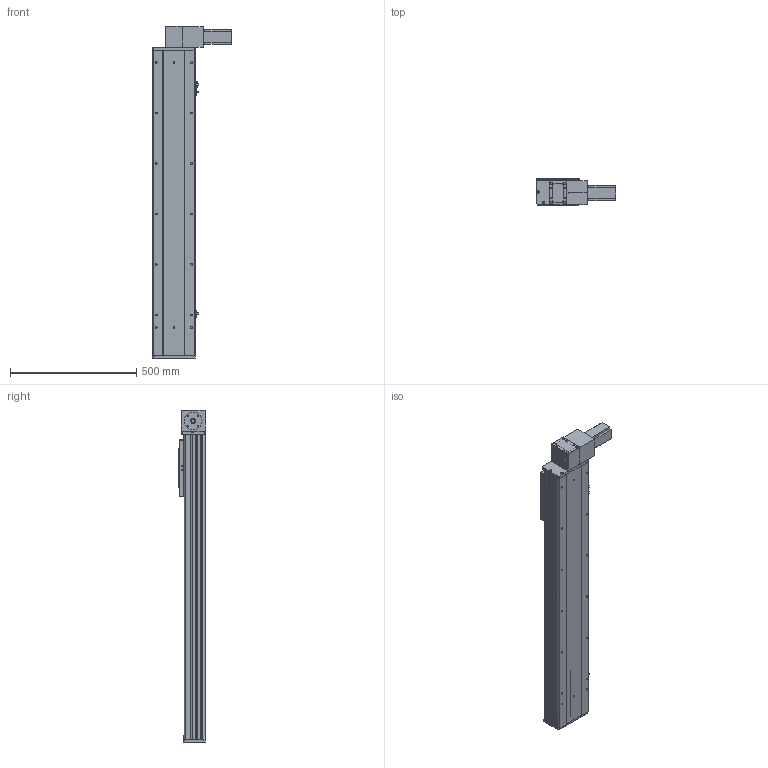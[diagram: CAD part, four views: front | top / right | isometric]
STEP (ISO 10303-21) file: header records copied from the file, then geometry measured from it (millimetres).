
FILE_DESCRIPTION (( 'STEP AP203' ), '1' );
FILE_NAME ('Y170CB-D105-S900-BD-P400W.STEP', '2020-02-20T08:30:27', ( '微软用户' ), ( '微软中国' ), 'SwSTEP 2.0', 'SolidWorks 2017', '' );
FILE_SCHEMA (( 'CONFIG_CONTROL_DESIGN' ));
Length unit declared in the file: millimetre
Products named in the file (16): Y1埴倛裔; --70CB --喘謫眊楊擘啣-; 70B喘謫眊----; 70CB-耜裔啣-; 0B薊粣ん眊-400W--; 70C--詩湍揤踡え-; Y170CB-D105-S900-BD-P400W; 70CB--耜裔; 70C-雄赽釱-奻-; 0C--雄赽釱俋欶-170; B-源倛裔啣; 70CB-詩湍--; san松下电机400不带刹车----; Y170CB-陔俋离換覜結え---; Y100-135俋离換覜ん--; 70CB-掛极-
Assembly tree (19 placements, depth 2):
  Y170CB-D105-S900-BD-P400W
    B-源倛裔啣
    san松下电机400不带刹车----
    70CB-掛极-
    --70CB --喘謫眊楊擘啣-
    70CB-耜裔啣-  x2
    70C--詩湍揤踡え-  x2
    70CB--耜裔
    70C-雄赽釱-奻-
    0C--雄赽釱俋欶-170
    70CB-詩湍--
    Y100-135俋离換覜ん--  x3
    Y170CB-陔俋离換覜結え---
    Y1埴倛裔
    70B喘謫眊----
    0B薊粣ん眊-400W--
Bounding box: 313.5 x 107 x 1316 mm (x, y, z)
Volume: 6432497 mm3; surface area: 2172713.9 mm2
Topology: 19 solids, 19 shells, 920 faces, 2426 edges, 1608 vertices
Faces by surface type: cylinder 474, plane 422, cone 24
Entity records: 28719 total; most frequent: CARTESIAN_POINT 5326, DIRECTION 4671, ORIENTED_EDGE 4334, EDGE_CURVE 2167, AXIS2_PLACEMENT_3D 1721, VERTEX_POINT 1438, VECTOR 1229, LINE 1229
